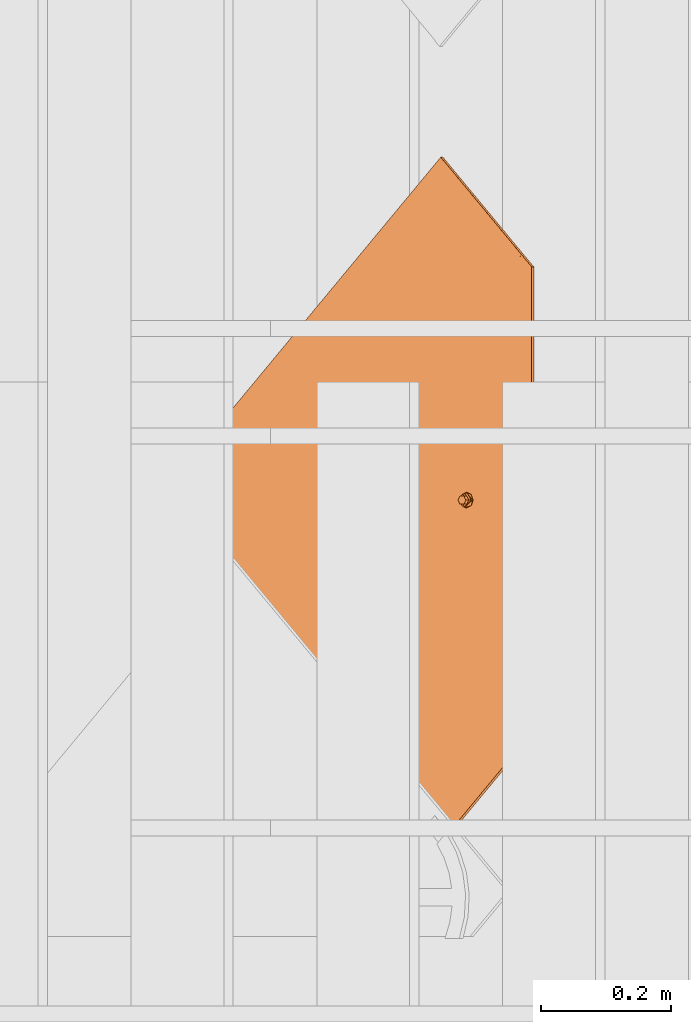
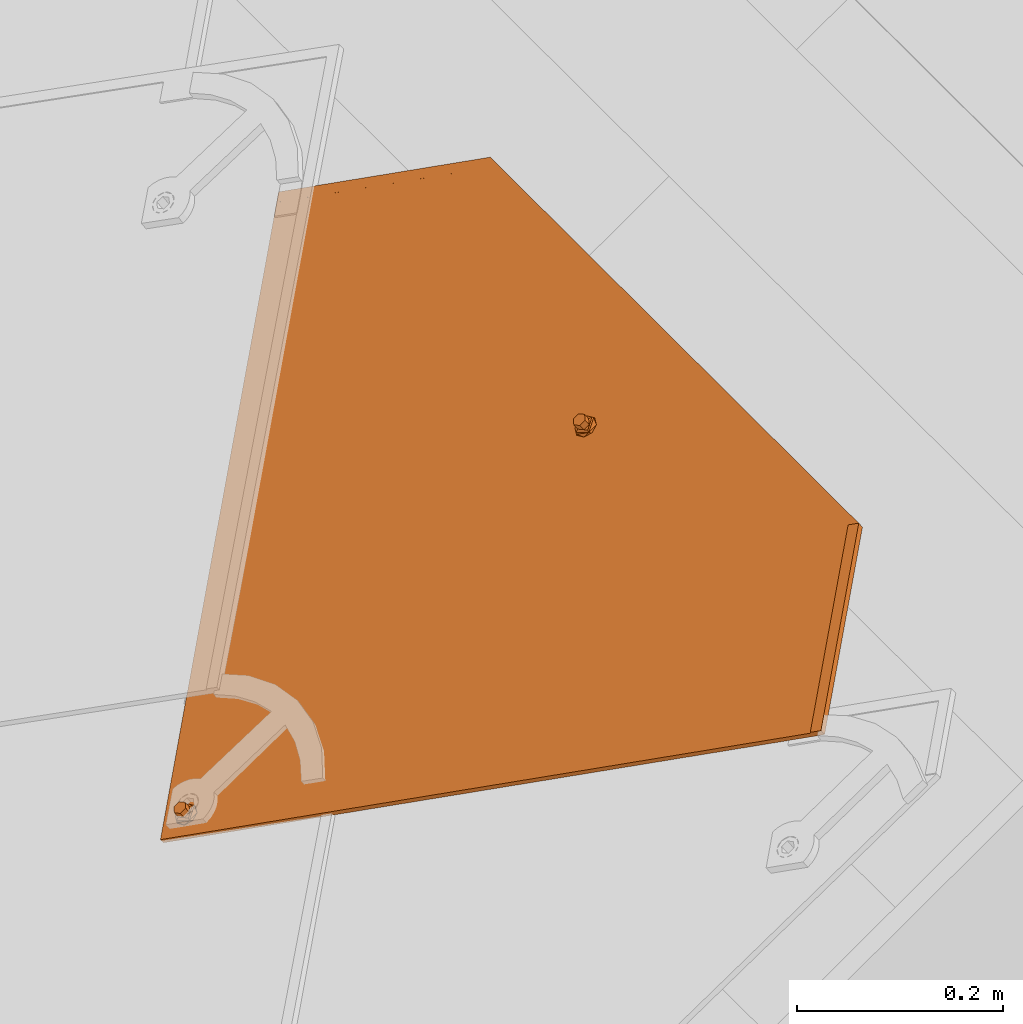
# One storey, part 15 of 151: 1 proxy.
"""IFC2X3 building model written with IfcOpenShell, lengths in millimetres."""

from ifc_helpers import new_model, entity, si_unit, converted_unit, derived_unit, direction, frame, origin, place, context, subcontext, project, spatial, faceted_brep, source, transform, mapped, material, material_list, type_object, type_shapes, element, save


model = new_model("IFC2X3")

# Units and contexts
model_context = context("Model", 3, precision=0.01, world=origin(), true_north=direction((6.12303176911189e-17, 1.0)))
body_context = subcontext(model_context, "Body", "Model", "MODEL_VIEW")
ifc_project = project(units=[si_unit("LENGTHUNIT", "METRE", prefix="MILLI"), si_unit("AREAUNIT", "SQUARE_METRE"), si_unit("VOLUMEUNIT", "CUBIC_METRE"), converted_unit("PLANEANGLEUNIT", "DEGREE", entity("IfcRatioMeasure", 0.0174532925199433), si_unit("PLANEANGLEUNIT", "RADIAN"), dimensions=[0, 0, 0, 0, 0, 0, 0]), si_unit("MASSUNIT", "GRAM", prefix="KILO"), derived_unit("MASSDENSITYUNIT", [(si_unit("MASSUNIT", "GRAM", prefix="KILO"), 1), (si_unit("LENGTHUNIT", "METRE"), -3)]), si_unit("TIMEUNIT", "SECOND"), si_unit("FREQUENCYUNIT", "HERTZ"), si_unit("THERMODYNAMICTEMPERATUREUNIT", "DEGREE_CELSIUS"), derived_unit("THERMALTRANSMITTANCEUNIT", [(si_unit("MASSUNIT", "GRAM", prefix="KILO"), 1), (si_unit("THERMODYNAMICTEMPERATUREUNIT", "KELVIN"), -1), (si_unit("TIMEUNIT", "SECOND"), -3)]), derived_unit("VOLUMETRICFLOWRATEUNIT", [(si_unit("LENGTHUNIT", "METRE"), 3), (si_unit("TIMEUNIT", "SECOND"), -1)]), si_unit("ELECTRICCURRENTUNIT", "AMPERE"), si_unit("ELECTRICVOLTAGEUNIT", "VOLT"), si_unit("POWERUNIT", "WATT"), si_unit("FORCEUNIT", "NEWTON", prefix="KILO"), si_unit("ILLUMINANCEUNIT", "LUX"), si_unit("LUMINOUSFLUXUNIT", "LUMEN"), si_unit("LUMINOUSINTENSITYUNIT", "CANDELA"), derived_unit("USERDEFINED", [(si_unit("MASSUNIT", "GRAM", prefix="KILO"), -1), (si_unit("LENGTHUNIT", "METRE"), -2), (si_unit("TIMEUNIT", "SECOND"), 3), (si_unit("LUMINOUSFLUXUNIT", "LUMEN"), 1)]), derived_unit("LINEARVELOCITYUNIT", [(si_unit("LENGTHUNIT", "METRE"), 1), (si_unit("TIMEUNIT", "SECOND"), -1)]), si_unit("PRESSUREUNIT", "PASCAL"), derived_unit("USERDEFINED", [(si_unit("LENGTHUNIT", "METRE"), -2), (si_unit("MASSUNIT", "GRAM", prefix="KILO"), 1), (si_unit("TIMEUNIT", "SECOND"), -2)])], contexts=[model_context])

# Site, building, storey
site_placement = place(None, origin())
site = spatial("IfcSite", under=ifc_project, at=site_placement, Name="Default", CompositionType="ELEMENT")
building_placement = place(site_placement, origin())
building = spatial("IfcBuilding", under=site, at=building_placement, CompositionType="ELEMENT")
storey_placement = place(building_placement, origin())
storey = spatial("IfcBuildingStorey", under=building, at=storey_placement, Name="Level 1", CompositionType="ELEMENT", Elevation=0.0)

# Proxy
ifc_material_1 = material(Name="Rubber - Sunstyle - Black")
ifc_material_2 = material(Name="Glass - Sunstyle - Tainted Black")
ifc_material_list_1 = material_list([ifc_material_1, ifc_material_2])
ifc_material_list_2 = material_list([ifc_material_1, ifc_material_2])
building_element_proxy_type = type_object("IfcBuildingElementProxyType", Name="Shingle Top - Black", PredefinedType="NOTDEFINED", material=ifc_material_list_2)
shared_shape = source(origin(), body_context, "Body", "Brep", [
    faceted_brep([(-518.396436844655, -96.9865733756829, 16.4476231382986), (-518.396436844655, -96.9614556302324, 17.9474128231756), (-526.881123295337, -88.4767691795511, 17.8053154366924), (-526.881123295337, -88.5018869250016, 16.3055257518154), (-376.996804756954, 61.3404039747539, 13.7960402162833), (-368.512118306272, 52.8557175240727, 13.9381376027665), (-376.996804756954, 61.3655217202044, 15.2958299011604), (-368.512118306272, 52.8808352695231, 15.4379272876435)], [[[0, 1, 2, 3]], [[0, 3, 4, 5]], [[3, 2, 6, 4]], [[2, 1, 7, 6]], [[1, 0, 5, 7]], [[5, 4, 6, 7]]]),
    faceted_brep([(0.166366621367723, -33.6374645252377, -4.47296585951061), (-5.6078362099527, -36.9707346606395, -4.4171418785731), (-5.60783620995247, -36.6024255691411, 17.5747274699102), (0.166366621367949, -33.2691554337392, 17.5189034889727), (-5.60783620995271, -43.6372749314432, -4.30549391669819), (-5.60783620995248, -43.2689658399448, 17.6863754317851), (0.166366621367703, -46.9705450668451, -4.24966993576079), (0.166366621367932, -46.6022359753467, 17.7421994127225), (5.94056945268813, -43.6372749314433, -4.30549391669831), (5.94056945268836, -43.2689658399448, 17.686375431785), (5.94056945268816, -36.9707346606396, -4.41714187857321), (5.94056945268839, -36.6024255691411, 17.5747274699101), (-8.43733754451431, -48.5381935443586, 17.774621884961), (0.16636662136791, -52.1014648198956, 17.8342978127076), (-12.0011084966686, -39.9356957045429, 17.6305514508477), (-8.43733754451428, -31.3331978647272, 17.4864810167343), (0.166366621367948, -27.7699265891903, 17.4268050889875), (8.77007078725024, -31.3331978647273, 17.4864810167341), (12.3338417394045, -39.935695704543, 17.6305514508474), (8.77007078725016, -48.5381935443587, 17.7746218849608), (-11.1578780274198, -37.6406185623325, 19.9433933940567), (-9.59010793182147, -39.8646808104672, 21.8708760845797), (0.166366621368, -32.5516055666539, 22.5035764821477), (0.166366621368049, -31.3111079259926, 21.9232298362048), (0.166366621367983, -29.1535570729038, 20.9138547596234), (0.166366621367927, -51.5454208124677, 19.1093557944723), (0.166366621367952, -50.6018442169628, 21.273060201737), (0.166366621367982, -47.1524685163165, 22.7481046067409), (0.166366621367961, -28.2829626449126, 18.7197675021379), (-6.15687907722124, -43.5022527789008, 22.6869725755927), (-6.15687907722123, -36.2018213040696, 22.5647085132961), (11.4906112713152, -42.1520387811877, 20.0189484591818), (10.0152467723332, -40.9390872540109, 21.7920079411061), (6.48961231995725, -36.2018213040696, 22.564708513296), (6.48961231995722, -43.5022527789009, 22.6869725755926), (-6.15687907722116, -43.3682243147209, 30.68986075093), (0.166366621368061, -47.0184400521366, 30.7509927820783), (0.166366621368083, -39.7180085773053, 30.6287287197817), (-6.15687907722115, -36.0677928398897, 30.5675966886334), (6.48961231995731, -43.368224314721, 30.6898607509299), (6.48961231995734, -36.0677928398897, 30.5675966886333), (0.166366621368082, -32.417577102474, 30.5064646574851), (0.166366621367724, -40.3040047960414, -4.36131789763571)], [[[0, 1, 2, 3]], [[1, 4, 5, 2]], [[4, 6, 7, 5]], [[6, 8, 9, 7]], [[8, 10, 11, 9]], [[10, 0, 3, 11]], [[12, 7, 13]], [[7, 12, 5]], [[14, 5, 12]], [[5, 14, 2]], [[15, 2, 14]], [[3, 2, 15]], [[15, 16, 3]], [[16, 17, 3]], [[11, 3, 17]], [[11, 17, 18]], [[9, 11, 18]], [[18, 19, 9]], [[7, 9, 19]], [[19, 13, 7]], [[20, 14, 12]], [[21, 22, 23, 24]], [[24, 20, 21]], [[25, 20, 12]], [[26, 27, 21]], [[15, 14, 20]], [[12, 13, 25]], [[20, 28, 15]], [[28, 20, 24]], [[21, 27, 29]], [[21, 29, 30]], [[26, 21, 20]], [[20, 25, 26]], [[15, 28, 16]], [[21, 30, 22]], [[31, 18, 17]], [[28, 31, 17]], [[32, 27, 26]], [[26, 31, 32]], [[26, 25, 31]], [[25, 19, 31]], [[17, 16, 28]], [[31, 19, 18]], [[24, 31, 28]], [[33, 34, 32]], [[23, 22, 33]], [[24, 32, 31]], [[27, 32, 34]], [[32, 23, 33]], [[19, 25, 13]], [[32, 24, 23]], [[35, 36, 37]], [[37, 38, 35]], [[36, 39, 37]], [[40, 37, 39]], [[37, 40, 41]], [[37, 41, 38]], [[42, 6, 4]], [[4, 1, 42]], [[1, 0, 42]], [[42, 8, 6]], [[0, 10, 42]], [[8, 42, 10]], [[22, 30, 38, 41]], [[30, 29, 35, 38]], [[29, 27, 36, 35]], [[27, 34, 39, 36]], [[34, 33, 40, 39]], [[33, 22, 41, 40]]]),
    faceted_brep([(0.0, -573.927138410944, 4.00636906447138), (-5.77420283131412, -577.260408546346, 4.0621930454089), (-5.77420283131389, -576.892099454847, 26.0540623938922), (0.0, -573.558829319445, 25.9982384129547), (-5.77420283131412, -583.926948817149, 4.1738410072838), (-5.7742028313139, -583.558639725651, 26.1657103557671), (0.0, -587.260218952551, 4.2296649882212), (0.0, -586.891909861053, 26.2215343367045), (5.77420283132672, -583.926948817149, 4.17384100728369), (5.77420283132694, -583.558639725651, 26.165710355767), (5.77420283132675, -577.260408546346, 4.06219304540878), (5.77420283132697, -576.892099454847, 26.0540623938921), (-8.60370416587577, -588.827867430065, 26.253956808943), (0.0, -592.391138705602, 26.3136327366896), (-12.1674751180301, -580.225369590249, 26.1098863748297), (-8.60370416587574, -571.622871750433, 25.9658159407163), (0.0, -568.059600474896, 25.9061400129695), (8.60370416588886, -571.622871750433, 25.9658159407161), (12.1674751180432, -580.225369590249, 26.1098863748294), (8.60370416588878, -588.827867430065, 26.2539568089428), (-11.3242446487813, -577.930292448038, 28.4227283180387), (-9.75647455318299, -580.154354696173, 30.3502110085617), (0.0, -572.84127945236, 30.9829114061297), (0.0, -571.600781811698, 30.4025647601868), (0.0, -569.44323095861, 29.3931896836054), (0.0, -591.835094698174, 27.5886907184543), (0.0, -590.891518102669, 29.752395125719), (0.0, -587.442142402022, 31.227439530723), (0.0, -568.572636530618, 27.1991024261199), (-6.32324569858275, -583.791926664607, 31.1663074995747), (-6.32324569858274, -576.491495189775, 31.0440434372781), (11.3242446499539, -582.441712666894, 28.4982833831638), (9.84888015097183, -581.228761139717, 30.2713428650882), (6.32324569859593, -576.491495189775, 31.044043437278), (6.32324569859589, -583.791926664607, 31.1663074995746), (-6.32324569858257, -583.657898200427, 39.169195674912), (0.0, -587.308113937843, 39.2303277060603), (0.0, -580.007682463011, 39.1080636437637), (-6.32324569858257, -576.357466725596, 39.0469316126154), (6.32324569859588, -583.657898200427, 39.1691956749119), (6.32324569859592, -576.357466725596, 39.0469316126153), (0.0, -572.70725098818, 38.9857995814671), (0.0, -580.593678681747, 4.11801702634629)], [[[0, 1, 2, 3]], [[1, 4, 5, 2]], [[4, 6, 7, 5]], [[6, 8, 9, 7]], [[8, 10, 11, 9]], [[10, 0, 3, 11]], [[12, 7, 13]], [[7, 12, 5]], [[14, 5, 12]], [[5, 14, 2]], [[15, 2, 14]], [[3, 2, 15]], [[15, 16, 3]], [[16, 17, 3]], [[11, 3, 17]], [[11, 17, 18]], [[9, 11, 18]], [[18, 19, 9]], [[7, 9, 19]], [[19, 13, 7]], [[20, 14, 12]], [[21, 22, 23, 24]], [[24, 20, 21]], [[25, 20, 12]], [[26, 27, 21]], [[15, 14, 20]], [[12, 13, 25]], [[20, 28, 15]], [[28, 20, 24]], [[21, 27, 29]], [[21, 29, 30]], [[26, 21, 20]], [[20, 25, 26]], [[15, 28, 16]], [[21, 30, 22]], [[31, 18, 17]], [[28, 31, 17]], [[32, 27, 26]], [[26, 31, 32]], [[26, 25, 31]], [[25, 19, 31]], [[17, 16, 28]], [[31, 19, 18]], [[24, 31, 28]], [[33, 34, 32]], [[23, 22, 33]], [[24, 32, 31]], [[27, 32, 34]], [[32, 23, 33]], [[19, 25, 13]], [[32, 24, 23]], [[35, 36, 37]], [[37, 38, 35]], [[36, 39, 37]], [[40, 37, 39]], [[37, 40, 41]], [[37, 41, 38]], [[42, 6, 4]], [[4, 1, 42]], [[1, 0, 42]], [[42, 8, 6]], [[0, 10, 42]], [[8, 42, 10]], [[22, 30, 38, 41]], [[30, 29, 35, 38]], [[29, 27, 36, 35]], [[27, 34, 39, 36]], [[34, 33, 40, 39]], [[33, 22, 41, 40]]]),
    faceted_brep([(518.482751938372, -96.8754983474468, 17.9260478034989), (526.967438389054, -88.3908118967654, 17.7839504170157), (526.967438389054, -88.3656941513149, 19.2837401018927), (518.482751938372, -96.8503806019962, 19.4258374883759), (349.749400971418, 71.8105397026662, 15.1009763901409), (358.234087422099, 80.2952261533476, 14.9588790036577), (358.234087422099, 80.3203438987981, 16.4586686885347), (349.749400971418, 71.8356574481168, 16.6007660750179)], [[[0, 1, 2, 3]], [[1, 0, 4, 5]], [[2, 1, 5, 6]], [[3, 2, 6, 7]], [[0, 3, 7, 4]], [[4, 7, 6, 5]]]),
    faceted_brep([(358.234087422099, 80.2952261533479, 14.9588790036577), (6.94661128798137, -35.8890860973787, 16.9046771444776), (7.74581466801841, -37.8182632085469, 16.9369860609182), (5.67526230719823, -34.2324641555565, 16.8769328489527), (8.01840805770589, -39.8885252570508, 16.9716577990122), (7.74581466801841, -41.9587873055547, 17.0063295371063), (6.94661128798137, -43.8879644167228, 17.0386384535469), (526.967438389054, -88.3908118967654, 17.7839504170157), (4.01840805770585, -32.9612934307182, 16.855643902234), (2.08896041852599, -32.1622021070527, 16.8422611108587), (0.0184080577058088, -31.8896469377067, 16.8376964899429), (-358.233442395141, 80.2952261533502, 14.9588790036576), (-2.05214430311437, -32.1622021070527, 16.8422611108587), (-3.98159194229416, -32.9612934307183, 16.855643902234), (-5.63844619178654, -34.2324641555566, 16.8769328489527), (-6.90979517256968, -35.8890860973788, 16.9046771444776), (-7.70899855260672, -37.8182632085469, 16.9369860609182), (-7.98159194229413, -39.8885252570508, 16.9716577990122), (-7.70899855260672, -41.9587873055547, 17.0063295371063), (-6.90979517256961, -43.8879644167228, 17.0386384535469), (-526.966793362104, -88.390811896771, 17.7839504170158), (-5.63844619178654, -45.544586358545, 17.0663827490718), (-5.6568542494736, -574.226981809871, 25.9204974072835), (-6.92820323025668, -575.883603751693, 25.9482417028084), (-7.72740661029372, -577.812780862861, 25.980550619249), (-8.0, -579.883042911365, 26.015222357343), (-7.72740661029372, -581.953304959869, 26.049894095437), (0.000322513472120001, -615.210165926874, 26.6068637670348), (7.72740661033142, -581.953304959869, 26.049894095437), (6.92820323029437, -583.882482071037, 26.0822030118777), (5.65685424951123, -585.53910401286, 26.1099473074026), (4.0, -586.810274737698, 26.1312362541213), (2.070552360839, -587.609366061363, 26.1446190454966), (0.0, -587.881921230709, 26.1491836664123), (-2.0705523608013, -587.609366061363, 26.1446190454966), (-4.0, -586.810274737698, 26.1312362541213), (-5.65685424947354, -585.53910401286, 26.1099473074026), (-6.92820323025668, -583.882482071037, 26.0822030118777), (-4.0, -572.955811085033, 25.8992084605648), (-3.98159194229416, -46.8157570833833, 17.0876716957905), (-2.07055236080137, -572.156719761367, 25.8858256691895), (-2.05214430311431, -47.614848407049, 17.1010544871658), (0.0, -571.884164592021, 25.8812610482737), (0.0184080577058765, -47.8874035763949, 17.1056191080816), (2.07055236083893, -572.156719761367, 25.8858256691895), (2.08896041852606, -47.6148484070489, 17.1010544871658), (4.0, -572.955811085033, 25.8992084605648), (4.01840805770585, -46.8157570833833, 17.0876716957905), (5.65685424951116, -574.226981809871, 25.9204974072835), (5.67526230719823, -45.544586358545, 17.0663827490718), (6.92820323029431, -575.883603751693, 25.9482417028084), (7.72740661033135, -577.812780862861, 25.980550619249), (8.0, -579.883042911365, 26.015222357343), (-358.233442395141, 80.1947551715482, 8.9597202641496), (-6.90979517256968, -35.9895570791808, 10.9055184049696), (-7.70899855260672, -37.9187341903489, 10.9378273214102), (-5.63844619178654, -34.3329351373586, 10.8777741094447), (-7.98159194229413, -39.9889962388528, 10.9724990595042), (-7.70899855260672, -42.0592582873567, 11.0071707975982), (-6.90979517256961, -43.9884353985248, 11.0394797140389), (-526.966793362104, -88.4912828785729, 11.7847916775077), (-3.98159194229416, -33.0617644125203, 10.856485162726), (-2.05214430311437, -32.2626730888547, 10.8431023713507), (0.0184080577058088, -31.9901179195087, 10.8385377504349), (358.234087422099, 80.1947551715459, 8.95972026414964), (2.08896041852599, -32.2626730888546, 10.8431023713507), (4.01840805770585, -33.0617644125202, 10.856485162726), (5.67526230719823, -34.3329351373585, 10.8777741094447), (6.94661128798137, -35.9895570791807, 10.9055184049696), (7.74581466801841, -37.9187341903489, 10.9378273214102), (8.01840805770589, -39.9889962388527, 10.9724990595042), (7.74581466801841, -42.0592582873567, 11.0071707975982), (6.94661128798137, -43.9884353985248, 11.0394797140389), (526.967438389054, -88.4912828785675, 11.7847916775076), (5.67526230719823, -45.645057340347, 11.0672240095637), (5.65685424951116, -574.327452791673, 19.9213386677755), (6.92820323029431, -575.984074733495, 19.9490829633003), (7.72740661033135, -577.913251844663, 19.981391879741), (8.0, -579.983513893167, 20.016063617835), (7.72740661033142, -582.053775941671, 20.050735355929), (0.000322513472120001, -615.310636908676, 20.6077050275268), (-7.72740661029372, -582.053775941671, 20.050735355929), (-6.92820323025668, -583.982953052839, 20.0830442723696), (-5.65685424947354, -585.639574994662, 20.1107885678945), (-4.0, -586.9107457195, 20.1320775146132), (-2.0705523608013, -587.709837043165, 20.1454603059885), (0.0, -587.982392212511, 20.1500249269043), (2.070552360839, -587.709837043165, 20.1454603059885), (4.0, -586.9107457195, 20.1320775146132), (5.65685424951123, -585.639574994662, 20.1107885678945), (6.92820323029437, -583.982953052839, 20.0830442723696), (4.01840805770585, -46.9162280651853, 11.0885129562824), (4.0, -573.056282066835, 19.9000497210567), (2.08896041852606, -47.7153193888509, 11.1018957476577), (2.07055236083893, -572.257190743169, 19.8866669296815), (0.0184080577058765, -47.9878745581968, 11.1064603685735), (0.0, -571.984635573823, 19.8821023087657), (-2.05214430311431, -47.7153193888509, 11.1018957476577), (-2.07055236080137, -572.257190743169, 19.8866669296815), (-3.98159194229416, -46.9162280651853, 11.0885129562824), (-4.0, -573.056282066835, 19.9000497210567), (-5.63844619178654, -45.645057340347, 11.0672240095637), (-5.6568542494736, -574.327452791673, 19.9213386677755), (-6.92820323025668, -575.984074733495, 19.9490829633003), (-7.72740661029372, -577.913251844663, 19.981391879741), (-8.0, -579.983513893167, 20.016063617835)], [[[0, 1, 2]], [[1, 0, 3]], [[0, 2, 4]], [[4, 5, 0]], [[5, 6, 0]], [[7, 0, 6]], [[8, 3, 0]], [[9, 8, 0]], [[10, 9, 0]], [[0, 11, 10]], [[12, 10, 11]], [[13, 12, 11]], [[14, 13, 11]], [[11, 15, 14]], [[15, 11, 16]], [[16, 11, 17]], [[11, 18, 17]], [[18, 11, 19]], [[11, 20, 19]], [[19, 20, 21]], [[20, 22, 21]], [[23, 22, 20]], [[24, 23, 20]], [[24, 20, 25]], [[26, 25, 20]], [[27, 26, 20]], [[7, 28, 27]], [[29, 27, 28]], [[27, 29, 30]], [[30, 31, 27]], [[31, 32, 27]], [[27, 32, 33]], [[27, 33, 34]], [[34, 35, 27]], [[27, 35, 36]], [[36, 37, 27]], [[37, 26, 27]], [[38, 21, 22]], [[38, 39, 21]], [[38, 40, 39]], [[40, 41, 39]], [[40, 42, 41]], [[41, 42, 43]], [[44, 43, 42]], [[44, 45, 43]], [[45, 44, 46]], [[46, 47, 45]], [[46, 48, 47]], [[48, 49, 47]], [[50, 7, 48]], [[48, 7, 49]], [[7, 50, 51]], [[7, 51, 52]], [[52, 28, 7]], [[7, 6, 49]], [[53, 54, 55]], [[54, 53, 56]], [[53, 55, 57]], [[58, 53, 57]], [[59, 53, 58]], [[60, 53, 59]], [[61, 56, 53]], [[62, 61, 53]], [[53, 63, 62]], [[63, 53, 64]], [[65, 63, 64]], [[66, 65, 64]], [[64, 67, 66]], [[67, 64, 68]], [[68, 64, 69]], [[70, 69, 64]], [[71, 70, 64]], [[72, 71, 64]], [[72, 64, 73]], [[72, 73, 74]], [[74, 73, 75]], [[73, 76, 75]], [[76, 73, 77]], [[77, 73, 78]], [[79, 78, 73]], [[79, 73, 80]], [[60, 81, 80]], [[80, 81, 82]], [[80, 82, 83]], [[83, 84, 80]], [[84, 85, 80]], [[85, 86, 80]], [[80, 86, 87]], [[80, 87, 88]], [[80, 88, 89]], [[79, 80, 90]], [[80, 89, 90]], [[75, 91, 74]], [[75, 92, 91]], [[92, 93, 91]], [[93, 92, 94]], [[93, 94, 95]], [[96, 95, 94]], [[97, 95, 96]], [[96, 98, 97]], [[98, 99, 97]], [[98, 100, 99]], [[100, 101, 99]], [[100, 102, 101]], [[60, 101, 102]], [[103, 60, 102]], [[103, 104, 60]], [[104, 105, 60]], [[105, 81, 60]], [[59, 101, 60]], [[27, 20, 60, 80]], [[7, 27, 80, 73]], [[0, 7, 73, 64]], [[25, 105, 104, 24]], [[24, 104, 103, 23]], [[38, 22, 102, 100]], [[102, 22, 23, 103]], [[40, 38, 100, 98]], [[40, 98, 96, 42]], [[42, 96, 94, 44]], [[44, 94, 92, 46]], [[50, 48, 75, 76]], [[75, 48, 46, 92]], [[51, 50, 76, 77]], [[51, 77, 78, 52]], [[52, 78, 79, 28]], [[28, 79, 90, 29]], [[31, 30, 89, 88]], [[29, 90, 89, 30]], [[87, 32, 31, 88]], [[32, 87, 86, 33]], [[34, 33, 86, 85]], [[34, 85, 84, 35]], [[37, 36, 83, 82]], [[35, 84, 83, 36]], [[37, 82, 81, 26]], [[26, 81, 105, 25]], [[17, 57, 55, 16]], [[16, 55, 54, 15]], [[13, 14, 56, 61]], [[56, 14, 15, 54]], [[12, 13, 61, 62]], [[12, 62, 63, 10]], [[10, 63, 65, 9]], [[9, 65, 66, 8]], [[1, 3, 67, 68]], [[67, 3, 8, 66]], [[2, 1, 68, 69]], [[2, 69, 70, 4]], [[4, 70, 71, 5]], [[5, 71, 72, 6]], [[47, 49, 74, 91]], [[74, 49, 6, 72]], [[45, 47, 91, 93]], [[45, 93, 95, 43]], [[43, 95, 97, 41]], [[41, 97, 99, 39]], [[19, 21, 101, 59]], [[101, 21, 39, 99]], [[18, 19, 59, 58]], [[18, 58, 57, 17]], [[11, 0, 64, 53]], [[20, 11, 53, 60]]]),
])
type_shapes(building_element_proxy_type, [shared_shape])
proxy_placement = place(storey_placement, frame((809.051100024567, -5925.48681173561, 2511.7739152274), z_axis=(-0.57357643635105, 0.0, 0.819152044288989), x_axis=(0.0, -1.0, 0.0)))
element("IfcBuildingElementProxy", 1, at=proxy_placement, inside=storey, type_object=building_element_proxy_type, material=ifc_material_list_1, Name="Roofing_Panels_SunStyle_Tile_Shingle-Top:Shingle Top - Black", ObjectType="Roofing_Panels_SunStyle_Tile_Shingle-Top:Shingle Top - Black", context=body_context, shape_type="MappedRepresentation", body=[
    mapped(shared_shape, transform((0.0, 0.0, 0.0), scale=1.0)),
])

save(model, "model.ifc")
